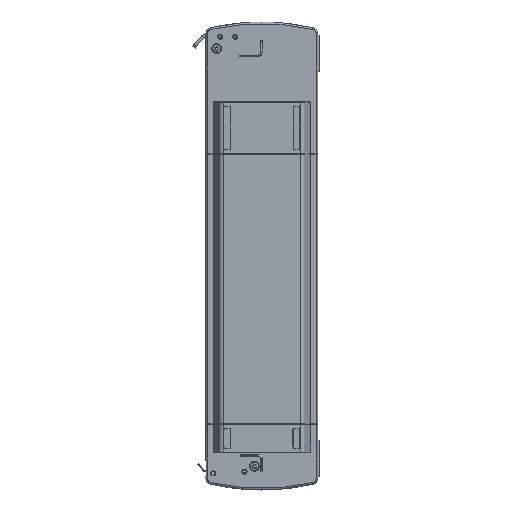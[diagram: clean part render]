
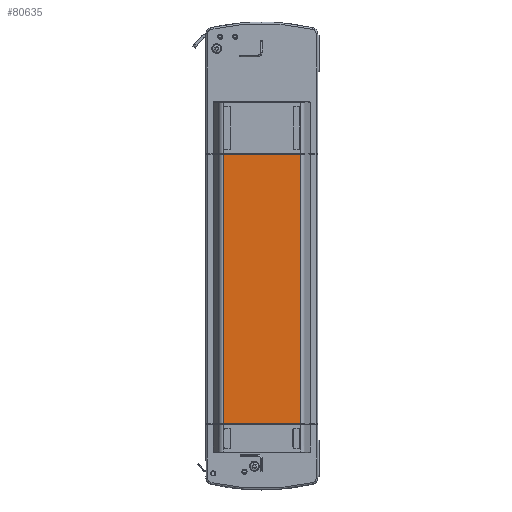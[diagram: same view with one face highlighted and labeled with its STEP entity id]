
A CAD part, front view. The second image highlights one B-rep face of the part: STEP entity #80635.
In plain terms, the highlighted planar face has unit normal (0, -1, 0).
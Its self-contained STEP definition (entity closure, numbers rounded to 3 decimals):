
#3220 = CARTESIAN_POINT ( 'NONE',  ( -26.032, -12., 93.5 ) ) ;
#15195 = CARTESIAN_POINT ( 'NONE',  ( -26.032, -12., -87.5 ) ) ;
#25209 = CARTESIAN_POINT ( 'NONE',  ( 26.032, -12., 93.5 ) ) ;
#34092 = VERTEX_POINT ( 'NONE', #138198 ) ;
#37004 = CARTESIAN_POINT ( 'NONE',  ( -26.032, -12., 93.5 ) ) ;
#37417 = EDGE_CURVE ( 'NONE', #34092, #147803, #57577, .T. ) ;
#41838 = CARTESIAN_POINT ( 'NONE',  ( 26.032, -12., 93.5 ) ) ;
#49693 = EDGE_CURVE ( 'NONE', #128486, #34092, #77803, .T. ) ;
#51736 = LINE ( 'NONE', #128389, #125270 ) ;
#55271 = ORIENTED_EDGE ( 'NONE', *, *, #125514, .F. ) ;
#57577 = LINE ( 'NONE', #88062, #150892 ) ;
#67805 = VECTOR ( 'NONE', #130609, 1000. ) ;
#77125 = DIRECTION ( 'NONE',  ( 0., 0., 1. ) ) ;
#77319 = DIRECTION ( 'NONE',  ( 1., 0., 0. ) ) ;
#77668 = CARTESIAN_POINT ( 'NONE',  ( -28.132, -12., 93.5 ) ) ;
#77803 = LINE ( 'NONE', #41838, #67805 ) ;
#80099 = EDGE_CURVE ( 'NONE', #127106, #128486, #51736, .T. ) ;
#80635 = ADVANCED_FACE ( 'NONE', ( #99299 ), #152597, .F. ) ;
#82074 = VECTOR ( 'NONE', #90816, 1000. ) ;
#88062 = CARTESIAN_POINT ( 'NONE',  ( 0., -12., -87.5 ) ) ;
#90816 = DIRECTION ( 'NONE',  ( 0., 0., 1. ) ) ;
#99299 = FACE_OUTER_BOUND ( 'NONE', #130875, .T. ) ;
#112835 = ORIENTED_EDGE ( 'NONE', *, *, #37417, .F. ) ;
#116312 = ORIENTED_EDGE ( 'NONE', *, *, #80099, .F. ) ;
#125270 = VECTOR ( 'NONE', #77319, 1000. ) ;
#125514 = EDGE_CURVE ( 'NONE', #147803, #127106, #163592, .T. ) ;
#127106 = VERTEX_POINT ( 'NONE', #37004 ) ;
#128389 = CARTESIAN_POINT ( 'NONE',  ( 0., -12., 93.5 ) ) ;
#128486 = VERTEX_POINT ( 'NONE', #25209 ) ;
#130609 = DIRECTION ( 'NONE',  ( 0., 0., -1. ) ) ;
#130875 = EDGE_LOOP ( 'NONE', ( #155566, #116312, #55271, #112835 ) ) ;
#138198 = CARTESIAN_POINT ( 'NONE',  ( 26.032, -12., -87.5 ) ) ;
#147303 = AXIS2_PLACEMENT_3D ( 'NONE', #77668, #153704, #77125 ) ;
#147803 = VERTEX_POINT ( 'NONE', #15195 ) ;
#150892 = VECTOR ( 'NONE', #163539, 1000. ) ;
#152597 = PLANE ( 'NONE',  #147303 ) ;
#153704 = DIRECTION ( 'NONE',  ( 0., 1., 0. ) ) ;
#155566 = ORIENTED_EDGE ( 'NONE', *, *, #49693, .F. ) ;
#163539 = DIRECTION ( 'NONE',  ( -1., 0., 0. ) ) ;
#163592 = LINE ( 'NONE', #3220, #82074 ) ;
